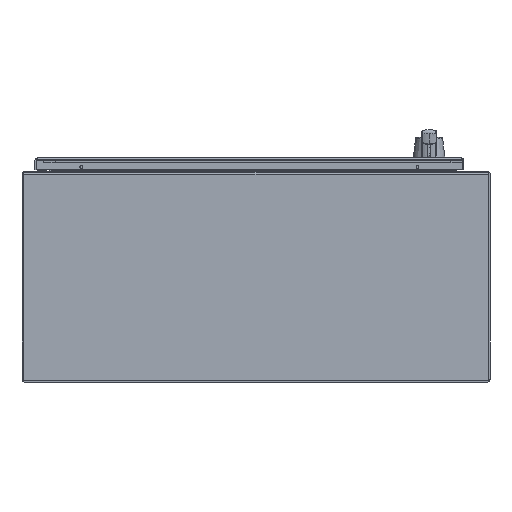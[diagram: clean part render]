
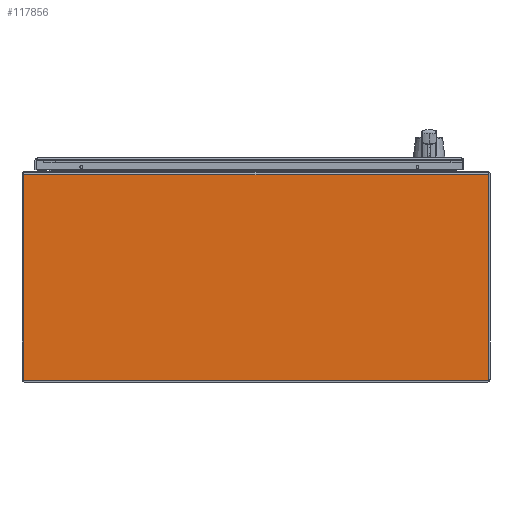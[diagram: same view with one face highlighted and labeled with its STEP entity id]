
A CAD part, front view. The second image highlights one B-rep face of the part: STEP entity #117856.
In plain terms, the highlighted planar face has unit normal (0, -1, 0).
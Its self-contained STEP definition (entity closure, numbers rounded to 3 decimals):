
#15335 = FACE_OUTER_BOUND ( 'NONE', #67788, .T. ) ;
#22817 = DIRECTION ( 'NONE',  ( -1., 0., 0. ) ) ;
#22818 = CARTESIAN_POINT ( 'NONE',  ( 19.984, 0., 17.714 ) ) ;
#24272 = DIRECTION ( 'NONE',  ( 0., 0., -1. ) ) ;
#24274 = CARTESIAN_POINT ( 'NONE',  ( 19.984, 0., 17.984 ) ) ;
#24345 = CARTESIAN_POINT ( 'NONE',  ( -19.984, 0., 17.984 ) ) ;
#24543 = DIRECTION ( 'NONE',  ( 0., 0., 1. ) ) ;
#34534 = LINE ( 'NONE', #47993, #34537 ) ;
#34537 = VECTOR ( 'NONE', #47986, 39.37 ) ;
#35958 = LINE ( 'NONE', #24345, #35979 ) ;
#35979 = VECTOR ( 'NONE', #24543, 39.37 ) ;
#36119 = LINE ( 'NONE', #24274, #36121 ) ;
#36121 = VECTOR ( 'NONE', #24272, 39.37 ) ;
#39314 = CARTESIAN_POINT ( 'NONE',  ( -19.984, 0., 0. ) ) ;
#39468 = CARTESIAN_POINT ( 'NONE',  ( 19.984, 0., 0. ) ) ;
#39472 = CARTESIAN_POINT ( 'NONE',  ( 19.984, 0., 17.714 ) ) ;
#39476 = CARTESIAN_POINT ( 'NONE',  ( -19.984, 0., 17.714 ) ) ;
#39901 = CARTESIAN_POINT ( 'NONE',  ( -19.984, 0., 0. ) ) ;
#39910 = PLANE ( 'NONE',  #47433 ) ;
#39921 = DIRECTION ( 'NONE',  ( 0., -1., 0. ) ) ;
#39923 = DIRECTION ( 'NONE',  ( 0., 0., -1. ) ) ;
#47433 = AXIS2_PLACEMENT_3D ( 'NONE', #39901, #39921, #39923 ) ;
#47986 = DIRECTION ( 'NONE',  ( -1., 0., 0. ) ) ;
#47993 = CARTESIAN_POINT ( 'NONE',  ( -19.984, 0., 0. ) ) ;
#67788 = EDGE_LOOP ( 'NONE', ( #78741, #78743, #78745, #78747 ) ) ;
#78741 = ORIENTED_EDGE ( 'NONE', *, *, #109941, .F. ) ;
#78743 = ORIENTED_EDGE ( 'NONE', *, *, #110466, .T. ) ;
#78745 = ORIENTED_EDGE ( 'NONE', *, *, #109893, .F. ) ;
#78747 = ORIENTED_EDGE ( 'NONE', *, *, #106757, .F. ) ;
#88058 = LINE ( 'NONE', #22818, #88062 ) ;
#88062 = VECTOR ( 'NONE', #22817, 39.37 ) ;
#106757 = EDGE_CURVE ( 'NONE', #117493, #117311, #34534, .T. ) ;
#109893 = EDGE_CURVE ( 'NONE', #117311, #117504, #35958, .T. ) ;
#109941 = EDGE_CURVE ( 'NONE', #117499, #117493, #36119, .T. ) ;
#110466 = EDGE_CURVE ( 'NONE', #117499, #117504, #88058, .T. ) ;
#117311 = VERTEX_POINT ( 'NONE', #39314 ) ;
#117493 = VERTEX_POINT ( 'NONE', #39468 ) ;
#117499 = VERTEX_POINT ( 'NONE', #39472 ) ;
#117504 = VERTEX_POINT ( 'NONE', #39476 ) ;
#117856 = ADVANCED_FACE ( 'NONE', ( #15335 ), #39910, .T. ) ;
